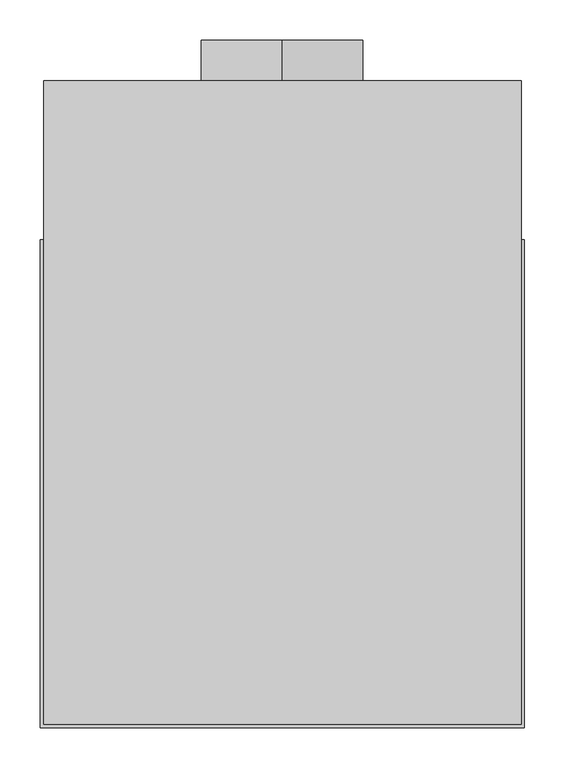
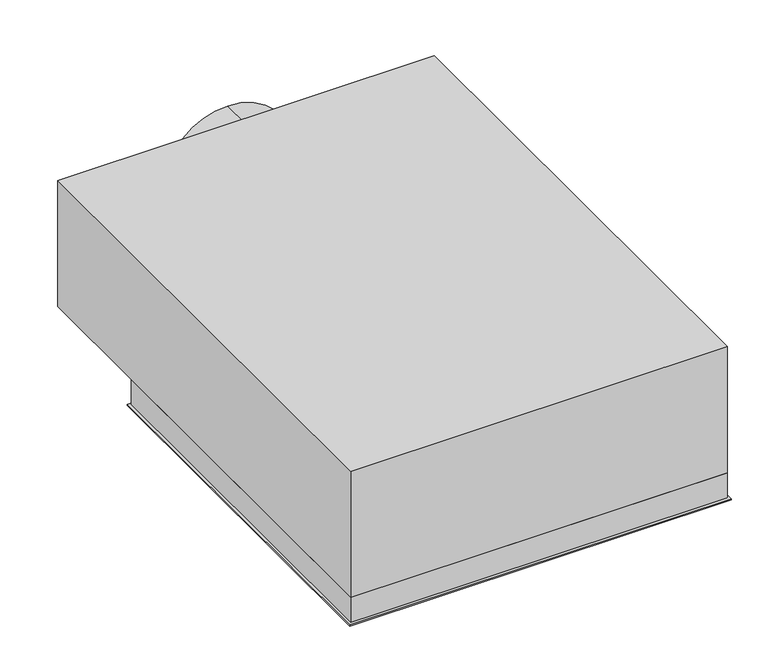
"""IFC4 building model written with IfcOpenShell, lengths in millimetres: air terminal geometry, EOL - plafonnier - SHORT : EOL-P4-200-600x600-SHORT."""

from ifc_helpers import new_model, si_unit, point, frame, frame_2d, origin, origin_with_axes, place, context, project, spatial, polyline, circle_curve, ellipse_curve, trimmed, segment, composite_curve, outline, extrude, source, transform, mapped, element, save
from ifc_brep_helpers import plane_surface, cylinder_surface, revolved_surface, advanced_brep


def air_terminal_ec4d0d53(model_context):
    return source(origin(), model_context, "Body", "SolidModel", [
        advanced_brep(
        [(42.3125856, 336.1251712, 26.7), (70.0, 363.8125856, 1.0), (70.0, 221.1874144, 1.0), (42.3125856, 248.8748288, 26.7), (42.3125856, 336.1251712, 35.0), (42.3125856, 248.8748288, 35.0), (43.3125856, 337.1251712, 26.77286), (43.3125856, 337.1251712, 35.0), (43.3125856, 247.8748288, 35.0), (43.3125856, 247.8748288, 26.77286), (70.0, 363.8125856, 2.0025269), (70.0, 221.1874144, 2.0025269), (-70.0, 221.1874144, 1.0), (-42.3125856, 248.8748288, 26.7), (-42.3125856, 248.8748288, 35.0), (-43.3125856, 247.8748288, 35.0), (-43.3125856, 247.8748288, 26.77286), (-70.0, 221.1874144, 2.0025269), (-70.0, 363.8125856, 1.0), (-42.3125856, 336.1251712, 26.7), (-42.3125856, 336.1251712, 35.0), (-43.3125856, 337.1251712, 35.0), (-43.3125856, 337.1251712, 26.77286), (-70.0, 363.8125856, 2.0025269)],
        [
            (0, 1, ellipse_curve(frame((72.1, 365.9125856, 31.0266548), z_axis=(0.7071067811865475, -0.7071067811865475, 0.0), x_axis=(0.7071067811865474, 0.7071067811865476, 0.0)), 42.5678282, 30.1)),
            (1, 2),
            (2, 3, ellipse_curve(frame((72.1, 219.0874144, 31.0266548), z_axis=(0.7071067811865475, 0.7071067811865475, 0.0), x_axis=(-0.7071067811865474, 0.7071067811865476, 0.0)), 42.5678282, 30.1)),
            (3, 0),
            (4, 0),
            (3, 5),
            (5, 4),
            (6, 7),
            (7, 8),
            (8, 9),
            (9, 6),
            (10, 6, ellipse_curve(frame((72.1, 365.9125856, 31.0266548), z_axis=(-0.7071067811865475, 0.7071067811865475, 0.0), x_axis=(-0.7071067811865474, -0.7071067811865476, 0.0)), 41.1536147, 29.1)),
            (9, 11, ellipse_curve(frame((72.1, 219.0874144, 31.0266548), z_axis=(-0.7071067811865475, -0.7071067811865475, 0.0), x_axis=(0.7071067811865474, -0.7071067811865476, 0.0)), 41.1536147, 29.1)),
            (11, 10),
            (1, 10),
            (11, 2),
            (2, 12),
            (12, 13, ellipse_curve(frame((-72.1, 219.0874144, 31.0266548), z_axis=(0.7071067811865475, -0.7071067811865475, 0.0), x_axis=(0.7071067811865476, 0.7071067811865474, 0.0)), 42.5678282, 30.1)),
            (13, 3),
            (13, 14),
            (14, 5),
            (8, 15),
            (15, 16),
            (16, 9),
            (16, 17, ellipse_curve(frame((-72.1, 219.0874144, 31.0266548), z_axis=(-0.7071067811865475, 0.7071067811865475, 0.0), x_axis=(-0.7071067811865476, -0.7071067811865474, 0.0)), 41.1536147, 29.1)),
            (17, 11),
            (17, 12),
            (12, 18),
            (18, 19, ellipse_curve(frame((-72.1, 365.9125856, 31.0266548), z_axis=(-0.7071067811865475, -0.7071067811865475, 0.0), x_axis=(0.7071067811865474, -0.7071067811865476, 0.0)), 42.5678282, 30.1)),
            (19, 13),
            (19, 20),
            (20, 14),
            (15, 21),
            (21, 22),
            (22, 16),
            (22, 23, ellipse_curve(frame((-72.1, 365.9125856, 31.0266548), z_axis=(0.7071067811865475, 0.7071067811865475, 0.0), x_axis=(-0.7071067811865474, 0.7071067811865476, 0.0)), 41.1536147, 29.1)),
            (23, 17),
            (23, 18),
            (18, 1),
            (0, 19),
            (4, 20),
            (7, 21),
            (6, 22),
            (10, 23),
        ],
        [
            cylinder_surface(frame((72.1, 335.8125856, 31.0266548), z_axis=(0.0, 1.0, 0.0), x_axis=(1.0, 0.0, 0.0)), 30.1),
            plane_surface(frame((42.3125856, 336.1251712, 26.7), z_axis=(-1.0, 0.0, 0.0), x_axis=(0.0, -1.0, 0.0))),
            plane_surface(frame((43.3125856, 337.1251712, 35.0), z_axis=(1.0, 0.0, 0.0), x_axis=(0.0, -1.0, 0.0))),
            revolved_surface(polyline([(101.19999999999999, 189.98741437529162, 31.0266548), (101.19999999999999, 395.0125856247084, 31.0266548)]), (72.1, 335.8125856, 31.0266548), (0.0, -1.0, 0.0)),
            plane_surface(frame((70.0, 363.8125856, 2.0025269), z_axis=(1.0, 0.0, 0.0), x_axis=(0.0, -1.0, 0.0))),
            cylinder_surface(frame((42.0, 219.0874144, 31.0266548), z_axis=(1.0, 0.0, 0.0), x_axis=(0.0, -1.0, 0.0)), 30.1),
            plane_surface(frame((42.3125856, 248.8748288, 26.7), z_axis=(0.0, 1.0, 0.0), x_axis=(-1.0, 0.0, 0.0))),
            plane_surface(frame((43.3125856, 247.8748288, 35.0), z_axis=(0.0, -1.0, 0.0), x_axis=(-1.0, 0.0, 0.0))),
            revolved_surface(polyline([(-101.20000002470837, 189.9874144, 31.0266548), (101.20000002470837, 189.9874144, 31.0266548)]), (42.0, 219.0874144, 31.0266548), (-1.0, 0.0, 0.0)),
            plane_surface(frame((70.0, 221.1874144, 2.0025269), z_axis=(0.0, -1.0, 0.0), x_axis=(-1.0, 0.0, 0.0))),
            cylinder_surface(frame((-72.1, 249.1874144, 31.0266548), z_axis=(0.0, -1.0, 0.0), x_axis=(-1.0, 0.0, 0.0)), 30.1),
            plane_surface(frame((-42.3125856, 248.8748288, 26.7), z_axis=(1.0, 0.0, 0.0), x_axis=(0.0, 1.0, 0.0))),
            plane_surface(frame((-43.3125856, 247.8748288, 35.0), z_axis=(-1.0, 0.0, 0.0), x_axis=(0.0, 1.0, 0.0))),
            revolved_surface(polyline([(-101.19999999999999, 395.0125856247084, 31.0266548), (-101.19999999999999, 189.98741437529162, 31.0266548)]), (-72.1, 249.1874144, 31.0266548), (0.0, 1.0, 0.0)),
            plane_surface(frame((-70.0, 221.1874144, 2.0025269), z_axis=(-1.0, 0.0, 0.0), x_axis=(0.0, 1.0, 0.0))),
            cylinder_surface(frame((-42.0, 365.9125856, 31.0266548), z_axis=(-1.0, 0.0, 0.0), x_axis=(0.0, 1.0, 0.0)), 30.1),
            plane_surface(frame((-42.3125856, 336.1251712, 26.7), z_axis=(0.0, -1.0, 0.0), x_axis=(1.0, 0.0, 0.0))),
            plane_surface(frame((-42.3125856, 336.1251712, 35.0), z_axis=(0.0, 0.0, 1.0), x_axis=(1.0, 0.0, 0.0))),
            plane_surface(frame((-43.3125856, 337.1251712, 35.0), z_axis=(0.0, 1.0, 0.0), x_axis=(1.0, 0.0, 0.0))),
            revolved_surface(polyline([(101.20000002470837, 395.0125856, 31.0266548), (-101.20000002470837, 395.0125856, 31.0266548)]), (-42.0, 365.9125856, 31.0266548), (1.0, 0.0, 0.0)),
            plane_surface(frame((-70.0, 363.8125856, 2.0025269), z_axis=(0.0, 1.0, 0.0), x_axis=(1.0, 0.0, 0.0))),
        ],
        [
            (0, [[1, 2, 3, 4]]),
            (1, [[5, -4, 6, 7]]),
            (2, [[8, 9, 10, 11]]),
            (3, [[12, -11, 13, 14]]),
            (4, [[15, -14, 16, -2]]),
            (5, [[-3, 17, 18, 19]]),
            (6, [[-6, -19, 20, 21]]),
            (7, [[-10, 22, 23, 24]]),
            (8, [[-13, -24, 25, 26]]),
            (9, [[-16, -26, 27, -17]]),
            (10, [[-18, 28, 29, 30]]),
            (11, [[-20, -30, 31, 32]]),
            (12, [[-23, 33, 34, 35]]),
            (13, [[-25, -35, 36, 37]]),
            (14, [[-27, -37, 38, -28]]),
            (15, [[-29, 39, -1, 40]]),
            (16, [[-31, -40, -5, 41]]),
            (17, [[42, -33, -22, -9], [-21, -32, -41, -7]]),
            (18, [[-34, -42, -8, 43]]),
            (19, [[-36, -43, -12, 44]]),
            (20, [[-38, -44, -15, -39]]),
        ],
    ),
        advanced_brep(
        [(295.0, 790.0, 251.0), (-295.0, 790.0, 251.0), (-295.0, -5.0, 251.0), (295.0, -5.0, 251.0), (295.0, 790.0, 42.0), (295.0, -5.0, 42.0), (-295.0, -5.0, 42.0), (-295.0, 790.0, 42.0), (0.0, 790.0, 42.0), (290.0, 585.0, 42.0), (-290.0, 585.0, 42.0), (-290.0, 0.0, 42.0), (290.0, 0.0, 42.0), (99.0, 790.0, 141.0), (-99.0, 790.0, 141.0), (290.0, 785.0, 246.0), (290.0, 785.0, 47.0), (290.0, 585.0, 47.0), (290.0, 0.0, 246.0), (-290.0, 0.0, 246.0), (-290.0, 585.0, 47.0), (-290.0, 785.0, 47.0), (-290.0, 785.0, 246.0), (31.0644491, 785.0, 47.0), (31.0644491, 770.0, 47.0), (-31.0644491, 770.0, 47.0), (-31.0644491, 785.0, 47.0), (-99.0, 785.0, 141.0), (99.0, 785.0, 141.0)],
        [
            (0, 1),
            (1, 2),
            (2, 3),
            (3, 0),
            (4, 5),
            (5, 6),
            (6, 7),
            (7, 8),
            (8, 4),
            (9, 10),
            (10, 11),
            (11, 12),
            (12, 9),
            (0, 4),
            (8, 13, circle_curve(frame((0.0, 790.0, 141.0), z_axis=(0.0, -1.0, 0.0), x_axis=(1.0, 0.0, 0.0)), 99.0)),
            (13, 14, circle_curve(frame((0.0, 790.0, 141.0), z_axis=(0.0, -1.0, 0.0), x_axis=(1.0, 0.0, 0.0)), 99.0)),
            (14, 8, circle_curve(frame((0.0, 790.0, 141.0), z_axis=(0.0, -1.0, 0.0), x_axis=(1.0, 0.0, 0.0)), 99.0)),
            (7, 1),
            (6, 2),
            (5, 3),
            (15, 16),
            (16, 17),
            (17, 9),
            (12, 18),
            (18, 15),
            (19, 11),
            (10, 20),
            (20, 21),
            (21, 22),
            (22, 19),
            (18, 19),
            (22, 15),
            (16, 23),
            (23, 24),
            (24, 25),
            (25, 26),
            (26, 21),
            (20, 17),
            (26, 27, circle_curve(frame((0.0, 785.0, 141.0), z_axis=(0.0, 1.0, 0.0), x_axis=(1.0, 0.0, 0.0)), 99.0)),
            (27, 28, circle_curve(frame((0.0, 785.0, 141.0), z_axis=(0.0, 1.0, 0.0), x_axis=(1.0, 0.0, 0.0)), 99.0)),
            (28, 23, circle_curve(frame((0.0, 785.0, 141.0), z_axis=(0.0, 1.0, 0.0), x_axis=(1.0, 0.0, 0.0)), 99.0)),
            (24, 25, circle_curve(frame((0.0, 770.0, 141.0), z_axis=(0.0, 1.0, 0.0), x_axis=(1.0, 0.0, 0.0)), 99.0)),
            (28, 13),
            (14, 27),
        ],
        [
            plane_surface(frame((-295.0, 790.0, 251.0), z_axis=(0.0, 0.0, 1.0), x_axis=(-1.0, 0.0, 0.0))),
            plane_surface(frame((-295.0, 790.0, 42.0), z_axis=(0.0, 0.0, -1.0), x_axis=(1.0, 0.0, 0.0))),
            plane_surface(frame((295.0, 790.0, 251.0), z_axis=(0.0, 1.0, 0.0), x_axis=(0.0, 0.0, -1.0))),
            plane_surface(frame((-295.0, 790.0, 251.0), z_axis=(-1.0, 0.0, 0.0), x_axis=(0.0, 0.0, -1.0))),
            plane_surface(frame((-295.0, -5.0, 251.0), z_axis=(0.0, -1.0, 0.0), x_axis=(0.0, 0.0, -1.0))),
            plane_surface(frame((295.0, -5.0, 251.0), z_axis=(1.0, 0.0, 0.0), x_axis=(0.0, 0.0, -1.0))),
            plane_surface(frame((290.0, 585.0, 246.0), z_axis=(-1.0, 0.0, 0.0), x_axis=(0.0, -1.0, 0.0))),
            plane_surface(frame((-290.0, 585.0, 246.0), z_axis=(1.0, 0.0, 0.0), x_axis=(0.0, 1.0, 0.0))),
            plane_surface(frame((290.0, 785.0, 246.0), z_axis=(0.0, 0.0, -1.0), x_axis=(-1.0, 0.0, 0.0))),
            plane_surface(frame((290.0, 585.0, 47.0), z_axis=(0.0, 0.0, 1.0), x_axis=(-1.0, 0.0, 0.0))),
            plane_surface(frame((290.0, 785.0, 47.0), z_axis=(0.0, -1.0, 0.0), x_axis=(-1.0, 0.0, 0.0))),
            plane_surface(frame((99.0, 770.0, 141.0), z_axis=(0.0, 1.0, 0.0), x_axis=(0.0, 0.0, 1.0))),
            revolved_surface(polyline([(99.0, 770.0, 141.0), (99.0, 790.0, 141.0)]), (0.0, 840.0, 141.0), (0.0, -1.0, 0.0)),
            revolved_surface(polyline([(99.0, 785.0, 141.0), (99.0, 790.0, 141.0)]), (0.0, 840.0, 141.0), (0.0, -1.0, 0.0)),
            plane_surface(frame((290.0, 585.0, 246.0), z_axis=(0.0, -1.0, 0.0), x_axis=(0.0, 0.0, -1.0))),
            plane_surface(frame((-290.0, 0.0, 246.0), z_axis=(0.0, 1.0, 0.0), x_axis=(0.0, 0.0, -1.0))),
        ],
        [
            (0, [[1, 2, 3, 4]]),
            (1, [[5, 6, 7, 8, 9], [10, 11, 12, 13]]),
            (2, [[-1, 14, -9, 15, 16, 17, -8, 18]]),
            (3, [[-2, -18, -7, 19]]),
            (4, [[-3, -19, -6, 20]]),
            (5, [[-4, -20, -5, -14]]),
            (6, [[21, 22, 23, -13, 24, 25]]),
            (7, [[26, -11, 27, 28, 29, 30]]),
            (8, [[-25, 31, -30, 32]]),
            (9, [[-22, 33, 34, 35, 36, 37, -28, 38]]),
            (10, [[-21, -32, -29, -37, 39, 40, 41, -33]]),
            (11, [[42, -35]]),
            (12, [[-42, -34, -41, 43, -15, -17, 44, -39, -36]]),
            (13, [[-44, -16, -43, -40]]),
            (14, [[-23, -38, -27, -10]]),
            (15, [[-31, -24, -12, -26]]),
        ],
    ),
        extrude(outline(polyline([(299.0, 594.0), (299.0, -9.0), (-299.0, -9.0), (-299.0, 594.0), (299.0, 594.0)]), holes=[polyline([(290.0, 585.0), (-290.0, 585.0), (-290.0, 0.0), (290.0, 0.0), (290.0, 585.0)])]), frame((0.0, 0.0, -2.0), z_axis=(0.0, 0.0, 1.0), x_axis=(1.0, 0.0, 0.0)), (0.0, 0.0, 1.0), 2.0),
        extrude(outline(composite_curve([segment(trimmed(circle_curve(frame_2d((141.0, 0.0)), 100.0), [point((41.0, 0.0))], [point((241.0, 0.0))], False, "CARTESIAN"), True, "CONTINUOUS"), segment(trimmed(circle_curve(frame_2d((141.0, 0.0)), 100.0), [point((241.0, 0.0))], [point((41.0, 0.0))], False, "CARTESIAN"), True, "CONTINUOUS")], self_intersect=False), holes=[composite_curve([segment(trimmed(circle_curve(frame_2d((141.0, 0.0)), 99.0), [point((141.0, 99.0))], [point((141.0, -99.0))], True, "CARTESIAN"), True, "CONTINUOUS"), segment(trimmed(circle_curve(frame_2d((141.0, 0.0)), 99.0), [point((141.0, -99.0))], [point((141.0, 99.0))], True, "CARTESIAN"), True, "CONTINUOUS")], self_intersect=False)]), frame((0.0, 790.0, 0.0), z_axis=(0.0, 1.0, 0.0), x_axis=(0.0, 0.0, 1.0)), (0.0, 0.0, 1.0), 50.0),
        extrude(outline(polyline([(295.0, 590.0), (295.0, -5.0), (-295.0, -5.0), (-295.0, 590.0), (295.0, 590.0)]), holes=[polyline([(290.0, 585.0), (-290.0, 585.0), (-290.0, 0.0), (290.0, 0.0), (290.0, 585.0)])]), origin_with_axes(), (0.0, 0.0, 1.0), 42.0),
    ])


if __name__ == "__main__":
    model = new_model("IFC4")
    model_context = context("Model", 3, world=origin())
    ifc_project = project(units=[si_unit("LENGTHUNIT", "METRE", prefix="MILLI")], contexts=[model_context])
    site = spatial("IfcSite", under=ifc_project)
    building = spatial("IfcBuilding", under=site)
    placement = place(None, origin())
    air_terminal_shape = air_terminal_ec4d0d53(model_context)
    element("IfcAirTerminal", 1, ObjectType="EOL - plafonnier - SHORT : EOL-P4-200-600x600-SHORT", at=placement, inside=building, context=model_context, shape_type="MappedRepresentation", body=[
        mapped(air_terminal_shape, transform((0.0, 0.0, 0.0), x_axis=(1.0, 0.0, 0.0), y_axis=(0.0, 1.0, 0.0), z_axis=(0.0, 0.0, 1.0))),
    ])
    save(model, "model.ifc")
